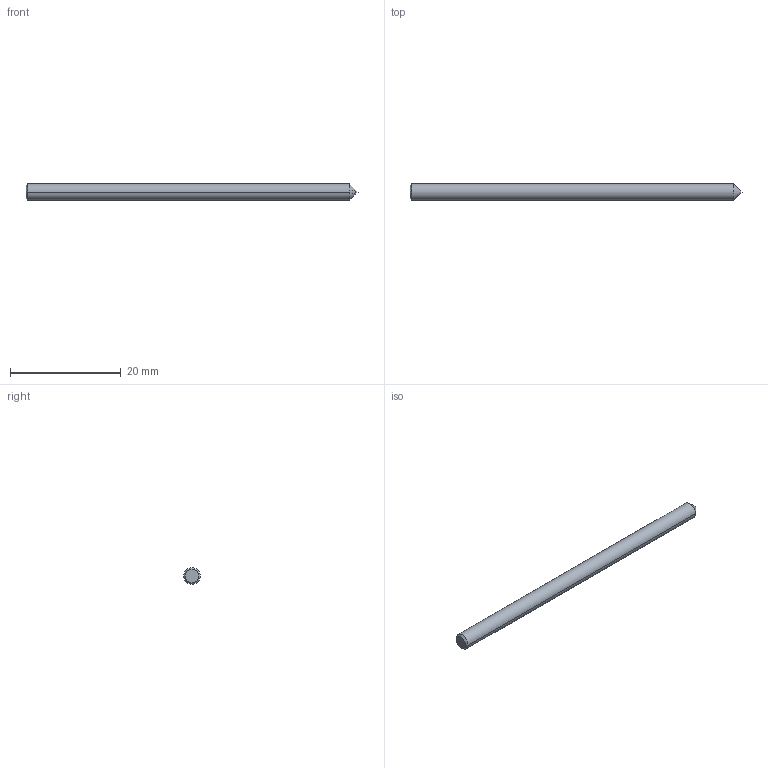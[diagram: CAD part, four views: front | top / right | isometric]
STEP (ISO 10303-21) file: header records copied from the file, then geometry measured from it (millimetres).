
FILE_DESCRIPTION (( 'STEP AP214' ), '1' );
FILE_NAME ('1877.STEP', '2021-06-07T07:34:22', ( '' ), ( '' ), 'SwSTEP 2.0', 'SolidWorks 2014', '' );
FILE_SCHEMA (( 'AUTOMOTIVE_DESIGN' ));
Length unit declared in the file: millimetre
Products named in the file (1): 1877
Bounding box: 60 x 3 x 3 mm (x, y, z)
Volume: 416.7 mm3; surface area: 580.8 mm2
Topology: 2 solids, 2 shells, 9 faces, 16 edges, 9 vertices
Faces by surface type: cone 4, plane 3, cylinder 2
Entity records: 328 total; most frequent: DIRECTION 42, CARTESIAN_POINT 33, ORIENTED_EDGE 28, AXIS2_PLACEMENT_3D 18, EDGE_CURVE 14, UNCERTAINTY_MEASURE_WITH_UNIT 11, SURFACE_SIDE_STYLE 10, MECHANICAL_DESIGN_GEOMETRIC_PRESENTATION_REPRESENTATION 10
